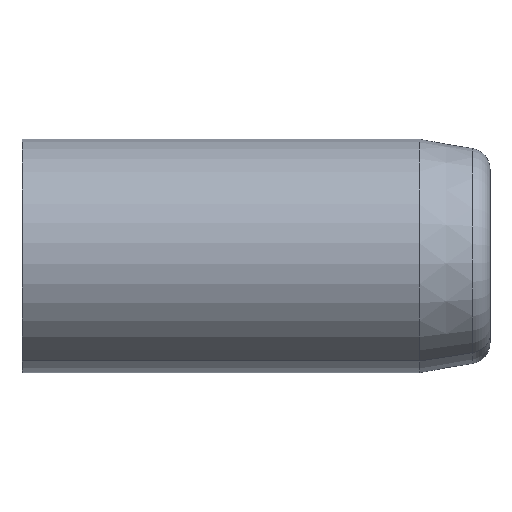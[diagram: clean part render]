
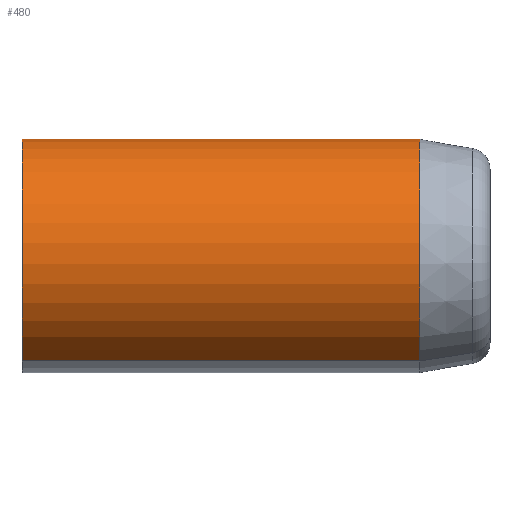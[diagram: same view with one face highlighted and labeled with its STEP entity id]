
A CAD part, left-side view. The second image highlights one B-rep face of the part: STEP entity #480.
In plain terms, the highlighted cylindrical face has radius 5 mm (diameter 10 mm), a partial arc.
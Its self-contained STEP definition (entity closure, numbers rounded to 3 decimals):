
#192 = DIRECTION ( 'NONE',  ( -1., 0., 0. ) ) ;
#195 = DIRECTION ( 'NONE',  ( 0., -1., 0. ) ) ;
#197 = DIRECTION ( 'NONE',  ( 0., -1., 0. ) ) ;
#209 = DIRECTION ( 'NONE',  ( 0., 0., -1. ) ) ;
#215 = CARTESIAN_POINT ( 'NONE',  ( 0., -7., 0. ) ) ;
#216 = CARTESIAN_POINT ( 'NONE',  ( 0., 10., 0. ) ) ;
#480 = ADVANCED_FACE ( 'NONE', ( #2224 ), #2237, .T. ) ;
#732 = EDGE_CURVE ( 'NONE', #3487, #3472, #2414, .T. ) ;
#743 = EDGE_CURVE ( 'NONE', #3503, #3516, #2477, .T. ) ;
#762 = EDGE_CURVE ( 'NONE', #3516, #3472, #1979, .T. ) ;
#765 = EDGE_CURVE ( 'NONE', #3503, #3487, #1983, .T. ) ;
#1337 = CARTESIAN_POINT ( 'NONE',  ( 0., 10., 5. ) ) ;
#1372 = CARTESIAN_POINT ( 'NONE',  ( 0., -7., 5. ) ) ;
#1373 = CARTESIAN_POINT ( 'NONE',  ( 0., 10., -5. ) ) ;
#1378 = CARTESIAN_POINT ( 'NONE',  ( 0., -7., -5. ) ) ;
#1835 = AXIS2_PLACEMENT_3D ( 'NONE', #2218, #2221, #2223 ) ;
#1873 = VECTOR ( 'NONE', #2429, 1000. ) ;
#1951 = AXIS2_PLACEMENT_3D ( 'NONE', #216, #195, #192 ) ;
#1955 = AXIS2_PLACEMENT_3D ( 'NONE', #215, #197, #209 ) ;
#1963 = VECTOR ( 'NONE', #2469, 1000. ) ;
#1979 = CIRCLE ( 'NONE', #1951, 5. ) ;
#1983 = CIRCLE ( 'NONE', #1955, 5. ) ;
#2218 = CARTESIAN_POINT ( 'NONE',  ( 0., -10.1, 0. ) ) ;
#2221 = DIRECTION ( 'NONE',  ( 0., 1., 0. ) ) ;
#2223 = DIRECTION ( 'NONE',  ( 0., 0., 1. ) ) ;
#2224 = FACE_OUTER_BOUND ( 'NONE', #3598, .T. ) ;
#2237 = CYLINDRICAL_SURFACE ( 'NONE', #1835, 5. ) ;
#2414 = LINE ( 'NONE', #2415, #1873 ) ;
#2415 = CARTESIAN_POINT ( 'NONE',  ( 0., -10.1, -5. ) ) ;
#2429 = DIRECTION ( 'NONE',  ( 0., 1., 0. ) ) ;
#2463 = CARTESIAN_POINT ( 'NONE',  ( 0., -10.1, 5. ) ) ;
#2469 = DIRECTION ( 'NONE',  ( 0., 1., 0. ) ) ;
#2477 = LINE ( 'NONE', #2463, #1963 ) ;
#2926 = ORIENTED_EDGE ( 'NONE', *, *, #765, .F. ) ;
#2929 = ORIENTED_EDGE ( 'NONE', *, *, #762, .T. ) ;
#2947 = ORIENTED_EDGE ( 'NONE', *, *, #732, .F. ) ;
#2966 = ORIENTED_EDGE ( 'NONE', *, *, #743, .T. ) ;
#3472 = VERTEX_POINT ( 'NONE', #1373 ) ;
#3487 = VERTEX_POINT ( 'NONE', #1378 ) ;
#3503 = VERTEX_POINT ( 'NONE', #1372 ) ;
#3516 = VERTEX_POINT ( 'NONE', #1337 ) ;
#3598 = EDGE_LOOP ( 'NONE', ( #2947, #2926, #2966, #2929 ) ) ;
